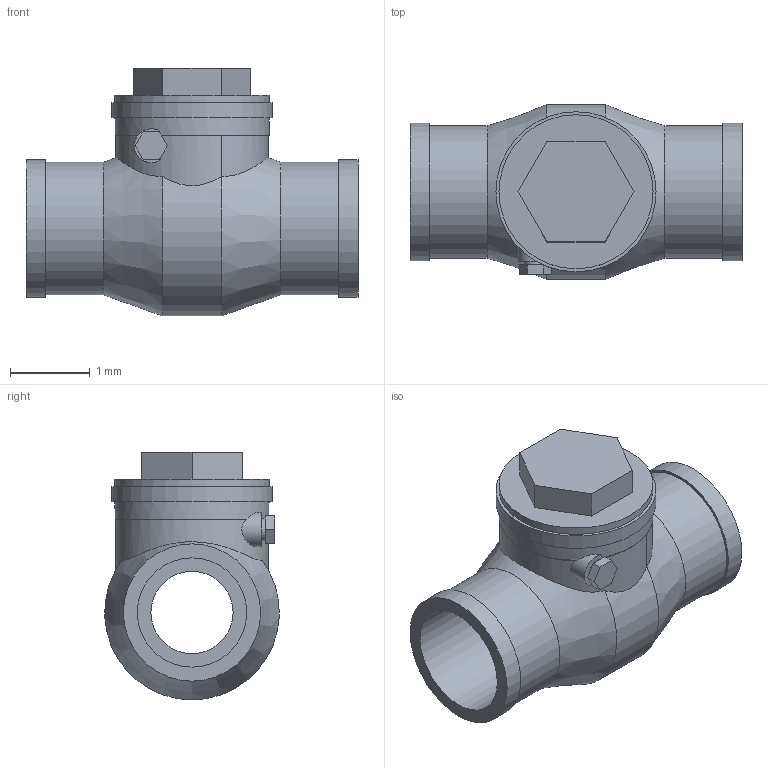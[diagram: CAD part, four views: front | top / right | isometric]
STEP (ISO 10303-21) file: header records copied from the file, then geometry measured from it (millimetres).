
FILE_DESCRIPTION(('Open CASCADE Model'),'2;1');
FILE_NAME('Open CASCADE Shape Model','2022-05-12T11:16:23',('Author'),( 'Open CASCADE'),'Open CASCADE STEP processor 7.3','Open CASCADE 7.3' ,'Unknown');
FILE_SCHEMA(('AUTOMOTIVE_DESIGN { 1 0 10303 214 1 1 1 1 }'));
Length unit declared in the file: millimetre
Products named in the file (1): Open CASCADE STEP translator 7.3 1
Bounding box: 4.16 x 2.19 x 3.1 mm (x, y, z)
Volume: 9.2 mm3; surface area: 51.5 mm2
Topology: 1 solids, 1 shells, 42 faces, 96 edges, 64 vertices
Faces by surface type: plane 26, cylinder 14, cone 2
Full cylindrical faces by diameter (mm): 0.275 x1, 1.03 x1, 1.37 x2, 1.658 x2, 1.72 x2, 1.91 x1, 1.93 x2, 2.006 x1
Entity records: 3227 total; most frequent: CARTESIAN_POINT 1282, DIRECTION 351, ORIENTED_EDGE 192, PCURVE 192, DEFINITIONAL_REPRESENTATION 192, LINE 187, VECTOR 187, EDGE_CURVE 96
